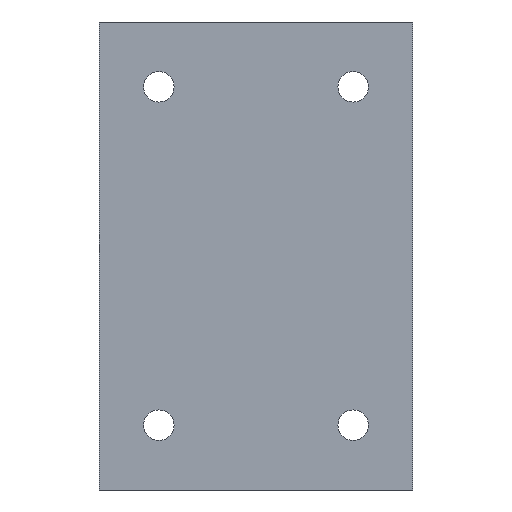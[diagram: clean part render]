
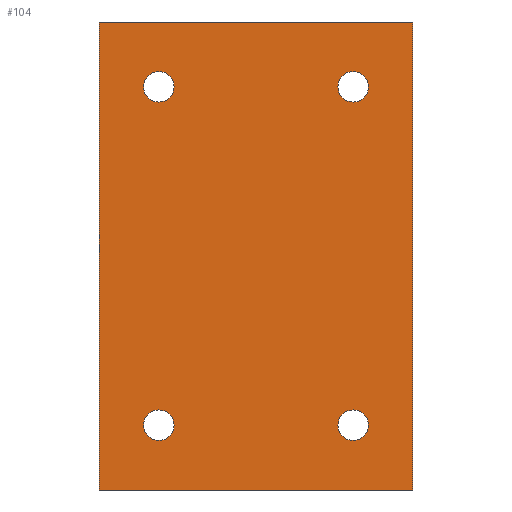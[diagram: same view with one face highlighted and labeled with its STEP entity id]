
A CAD part, front view. The second image highlights one B-rep face of the part: STEP entity #104.
In plain terms, the highlighted planar face has unit normal (0, -1, 0).
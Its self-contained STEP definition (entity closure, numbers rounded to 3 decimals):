
#58 = DIRECTION ( 'NONE',  ( 1., 0., 0. ) ) ;
#63 = ORIENTED_EDGE ( 'NONE', *, *, #1126, .F. ) ;
#66 = ORIENTED_EDGE ( 'NONE', *, *, #724, .F. ) ;
#77 = DIRECTION ( 'NONE',  ( 0., -1., 0. ) ) ;
#104 = ADVANCED_FACE ( 'NONE', ( #2109, #1403, #1552, #1907, #1208 ), #1727, .F. ) ;
#132 = CARTESIAN_POINT ( 'NONE',  ( 43.5, -25.5, -65. ) ) ;
#159 = CARTESIAN_POINT ( 'NONE',  ( -43.5, -25.5, 65. ) ) ;
#160 = CIRCLE ( 'NONE', #622, 4.25 ) ;
#167 = DIRECTION ( 'NONE',  ( 0., 0., -1. ) ) ;
#168 = CIRCLE ( 'NONE', #972, 4.25 ) ;
#195 = DIRECTION ( 'NONE',  ( 0., 0., -1. ) ) ;
#196 = DIRECTION ( 'NONE',  ( 0., -1., 0. ) ) ;
#233 = EDGE_CURVE ( 'NONE', #1617, #487, #1067, .T. ) ;
#302 = EDGE_CURVE ( 'NONE', #1348, #1787, #767, .T. ) ;
#311 = CARTESIAN_POINT ( 'NONE',  ( -27., -25.5, 47. ) ) ;
#323 = AXIS2_PLACEMENT_3D ( 'NONE', #2367, #1809, #390 ) ;
#335 = VERTEX_POINT ( 'NONE', #1261 ) ;
#352 = CARTESIAN_POINT ( 'NONE',  ( 27., -25.5, 47. ) ) ;
#374 = ORIENTED_EDGE ( 'NONE', *, *, #854, .T. ) ;
#385 = DIRECTION ( 'NONE',  ( 0., 0., -1. ) ) ;
#390 = DIRECTION ( 'NONE',  ( 0., 0., -1. ) ) ;
#395 = CARTESIAN_POINT ( 'NONE',  ( -27., -25.5, -47. ) ) ;
#401 = DIRECTION ( 'NONE',  ( 0., -1., 0. ) ) ;
#423 = CARTESIAN_POINT ( 'NONE',  ( 27., -25.5, -42.75 ) ) ;
#471 = VECTOR ( 'NONE', #1532, 1000. ) ;
#487 = VERTEX_POINT ( 'NONE', #1044 ) ;
#490 = DIRECTION ( 'NONE',  ( 0., 0., -1. ) ) ;
#505 = DIRECTION ( 'NONE',  ( 0., 0., -1. ) ) ;
#512 = VECTOR ( 'NONE', #2379, 1000. ) ;
#543 = AXIS2_PLACEMENT_3D ( 'NONE', #352, #904, #385 ) ;
#588 = AXIS2_PLACEMENT_3D ( 'NONE', #1263, #401, #167 ) ;
#609 = ORIENTED_EDGE ( 'NONE', *, *, #820, .F. ) ;
#616 = EDGE_CURVE ( 'NONE', #2266, #2291, #1957, .T. ) ;
#618 = ORIENTED_EDGE ( 'NONE', *, *, #1606, .F. ) ;
#622 = AXIS2_PLACEMENT_3D ( 'NONE', #395, #728, #195 ) ;
#626 = ORIENTED_EDGE ( 'NONE', *, *, #1430, .F. ) ;
#679 = CARTESIAN_POINT ( 'NONE',  ( -27., -25.5, 51.25 ) ) ;
#714 = VERTEX_POINT ( 'NONE', #744 ) ;
#718 = EDGE_CURVE ( 'NONE', #1787, #1348, #1763, .T. ) ;
#724 = EDGE_CURVE ( 'NONE', #885, #714, #1343, .T. ) ;
#728 = DIRECTION ( 'NONE',  ( 0., -1., 0. ) ) ;
#742 = DIRECTION ( 'NONE',  ( 0., 0., -1. ) ) ;
#744 = CARTESIAN_POINT ( 'NONE',  ( 27., -25.5, -51.25 ) ) ;
#755 = DIRECTION ( 'NONE',  ( 0., 0., -1. ) ) ;
#767 = CIRCLE ( 'NONE', #543, 4.25 ) ;
#778 = CARTESIAN_POINT ( 'NONE',  ( -43.5, -25.5, -65. ) ) ;
#780 = CARTESIAN_POINT ( 'NONE',  ( -27., -25.5, -42.75 ) ) ;
#790 = EDGE_CURVE ( 'NONE', #936, #1309, #925, .T. ) ;
#807 = EDGE_LOOP ( 'NONE', ( #2058, #935 ) ) ;
#820 = EDGE_CURVE ( 'NONE', #1617, #936, #1146, .T. ) ;
#834 = ORIENTED_EDGE ( 'NONE', *, *, #616, .F. ) ;
#854 = EDGE_CURVE ( 'NONE', #487, #1309, #1878, .T. ) ;
#885 = VERTEX_POINT ( 'NONE', #423 ) ;
#904 = DIRECTION ( 'NONE',  ( 0., -1., 0. ) ) ;
#925 = LINE ( 'NONE', #1298, #512 ) ;
#935 = ORIENTED_EDGE ( 'NONE', *, *, #302, .F. ) ;
#936 = VERTEX_POINT ( 'NONE', #1740 ) ;
#958 = ORIENTED_EDGE ( 'NONE', *, *, #1990, .F. ) ;
#972 = AXIS2_PLACEMENT_3D ( 'NONE', #311, #1233, #505 ) ;
#992 = CARTESIAN_POINT ( 'NONE',  ( -27., -25.5, -51.25 ) ) ;
#1044 = CARTESIAN_POINT ( 'NONE',  ( -43.5, -25.5, -65. ) ) ;
#1067 = LINE ( 'NONE', #2145, #1212 ) ;
#1107 = CARTESIAN_POINT ( 'NONE',  ( 27., -25.5, -47. ) ) ;
#1126 = EDGE_CURVE ( 'NONE', #2291, #2266, #160, .T. ) ;
#1146 = LINE ( 'NONE', #1899, #1389 ) ;
#1208 = FACE_BOUND ( 'NONE', #2235, .T. ) ;
#1212 = VECTOR ( 'NONE', #742, 1000. ) ;
#1233 = DIRECTION ( 'NONE',  ( 0., -1., 0. ) ) ;
#1246 = AXIS2_PLACEMENT_3D ( 'NONE', #1721, #77, #490 ) ;
#1261 = CARTESIAN_POINT ( 'NONE',  ( -27., -25.5, 42.75 ) ) ;
#1263 = CARTESIAN_POINT ( 'NONE',  ( 27., -25.5, 47. ) ) ;
#1296 = EDGE_LOOP ( 'NONE', ( #626, #66 ) ) ;
#1298 = CARTESIAN_POINT ( 'NONE',  ( 43.5, -25.5, 65. ) ) ;
#1309 = VERTEX_POINT ( 'NONE', #132 ) ;
#1310 = AXIS2_PLACEMENT_3D ( 'NONE', #1951, #1457, #755 ) ;
#1313 = AXIS2_PLACEMENT_3D ( 'NONE', #1107, #196, #1494 ) ;
#1343 = CIRCLE ( 'NONE', #323, 4.25 ) ;
#1348 = VERTEX_POINT ( 'NONE', #2350 ) ;
#1360 = DIRECTION ( 'NONE',  ( 0., 0., 1. ) ) ;
#1389 = VECTOR ( 'NONE', #58, 1000. ) ;
#1403 = FACE_BOUND ( 'NONE', #1296, .T. ) ;
#1430 = EDGE_CURVE ( 'NONE', #714, #885, #2345, .T. ) ;
#1457 = DIRECTION ( 'NONE',  ( 0., -1., 0. ) ) ;
#1494 = DIRECTION ( 'NONE',  ( 0., 0., -1. ) ) ;
#1532 = DIRECTION ( 'NONE',  ( 1., 0., 0. ) ) ;
#1552 = FACE_BOUND ( 'NONE', #1876, .T. ) ;
#1606 = EDGE_CURVE ( 'NONE', #335, #2053, #168, .T. ) ;
#1617 = VERTEX_POINT ( 'NONE', #159 ) ;
#1699 = ORIENTED_EDGE ( 'NONE', *, *, #233, .T. ) ;
#1721 = CARTESIAN_POINT ( 'NONE',  ( -27., -25.5, 47. ) ) ;
#1727 = PLANE ( 'NONE',  #2236 ) ;
#1740 = CARTESIAN_POINT ( 'NONE',  ( 43.5, -25.5, 65. ) ) ;
#1763 = CIRCLE ( 'NONE', #588, 4.25 ) ;
#1787 = VERTEX_POINT ( 'NONE', #2185 ) ;
#1809 = DIRECTION ( 'NONE',  ( 0., -1., 0. ) ) ;
#1876 = EDGE_LOOP ( 'NONE', ( #63, #834 ) ) ;
#1878 = LINE ( 'NONE', #778, #471 ) ;
#1881 = EDGE_LOOP ( 'NONE', ( #374, #2334, #609, #1699 ) ) ;
#1899 = CARTESIAN_POINT ( 'NONE',  ( -43.5, -25.5, 65. ) ) ;
#1907 = FACE_OUTER_BOUND ( 'NONE', #1881, .T. ) ;
#1936 = CARTESIAN_POINT ( 'NONE',  ( -43.5, -25.5, 65. ) ) ;
#1951 = CARTESIAN_POINT ( 'NONE',  ( -27., -25.5, -47. ) ) ;
#1957 = CIRCLE ( 'NONE', #1310, 4.25 ) ;
#1990 = EDGE_CURVE ( 'NONE', #2053, #335, #2256, .T. ) ;
#2053 = VERTEX_POINT ( 'NONE', #679 ) ;
#2058 = ORIENTED_EDGE ( 'NONE', *, *, #718, .F. ) ;
#2109 = FACE_BOUND ( 'NONE', #807, .T. ) ;
#2145 = CARTESIAN_POINT ( 'NONE',  ( -43.5, -25.5, 65. ) ) ;
#2185 = CARTESIAN_POINT ( 'NONE',  ( 27., -25.5, 42.75 ) ) ;
#2235 = EDGE_LOOP ( 'NONE', ( #618, #958 ) ) ;
#2236 = AXIS2_PLACEMENT_3D ( 'NONE', #1936, #2270, #1360 ) ;
#2256 = CIRCLE ( 'NONE', #1246, 4.25 ) ;
#2266 = VERTEX_POINT ( 'NONE', #780 ) ;
#2270 = DIRECTION ( 'NONE',  ( 0., 1., 0. ) ) ;
#2291 = VERTEX_POINT ( 'NONE', #992 ) ;
#2334 = ORIENTED_EDGE ( 'NONE', *, *, #790, .F. ) ;
#2345 = CIRCLE ( 'NONE', #1313, 4.25 ) ;
#2350 = CARTESIAN_POINT ( 'NONE',  ( 27., -25.5, 51.25 ) ) ;
#2367 = CARTESIAN_POINT ( 'NONE',  ( 27., -25.5, -47. ) ) ;
#2379 = DIRECTION ( 'NONE',  ( 0., 0., -1. ) ) ;
